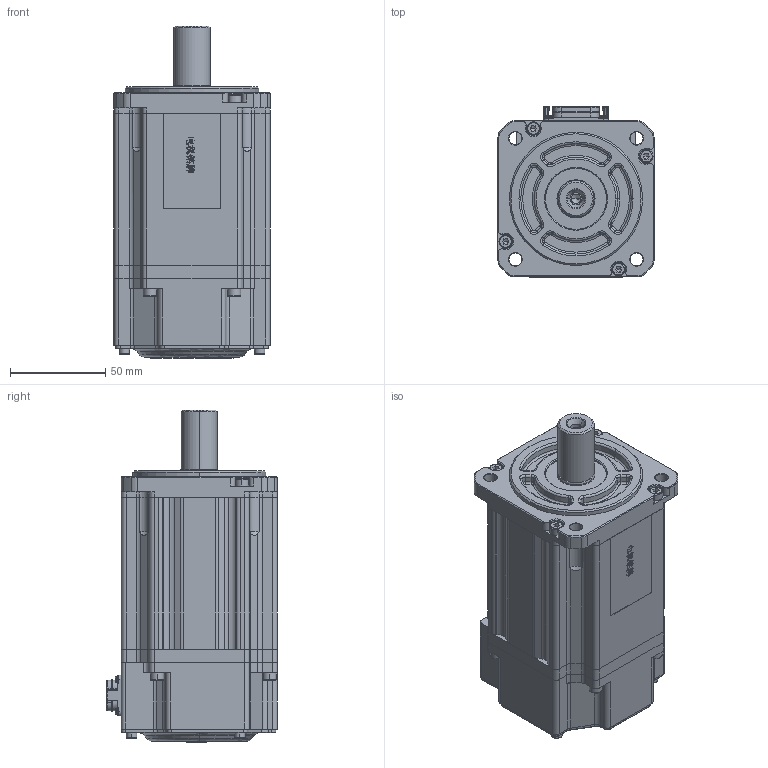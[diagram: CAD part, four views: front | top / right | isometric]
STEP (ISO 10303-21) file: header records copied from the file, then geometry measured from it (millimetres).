
FILE_DESCRIPTION (( 'STEP AP203' ), '1' );
FILE_NAME ('MC20-080-3L30-N102-0¡õCL-NNNN.STEP', '2026-04-20T15:26:13', ( '' ), ( '' ), 'SwSTEP 2.0', 'SolidWorks 2014', '' );
FILE_SCHEMA (( 'CONFIG_CONTROL_DESIGN' ));
Length unit declared in the file: millimetre
Products named in the file (1): MC20-080-3L30-N102-0¡õCL-NNNN
Bounding box: 82 x 89.65 x 174.5 mm (x, y, z)
Volume: 881282.2 mm3; surface area: 129266.8 mm2
Topology: 18 solids, 22 shells, 2291 faces, 6015 edges, 3836 vertices
Faces by surface type: plane 1050, cylinder 600, bspline 340, cone 183, torus 118
Entity records: 90899 total; most frequent: CARTESIAN_POINT 37057, ORIENTED_EDGE 11880, DIRECTION 9996, EDGE_CURVE 5940, VERTEX_POINT 3836, VECTOR 3382, LINE 3382, AXIS2_PLACEMENT_3D 3307
